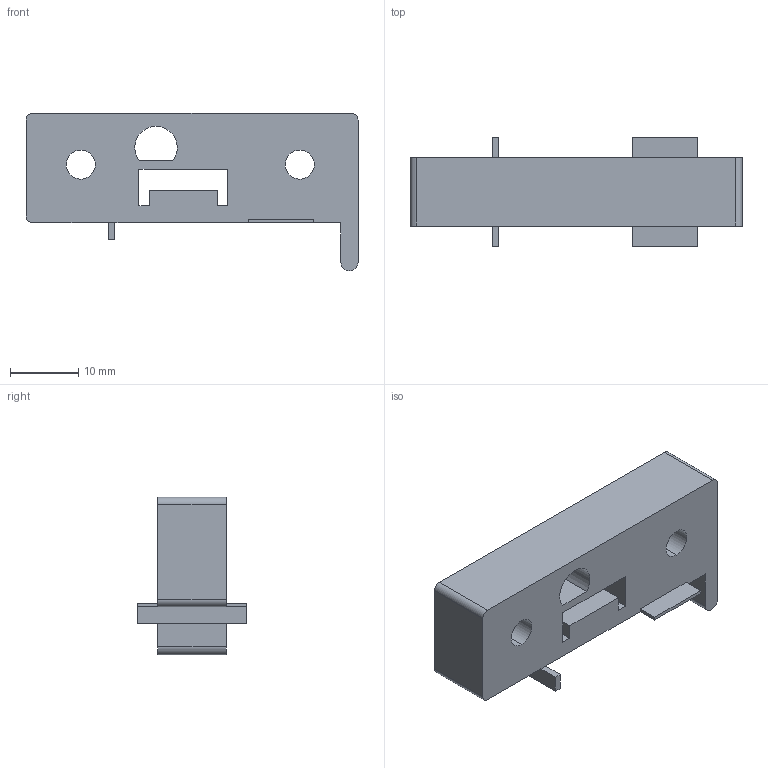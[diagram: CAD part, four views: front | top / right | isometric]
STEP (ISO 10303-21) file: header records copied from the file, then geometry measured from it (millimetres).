
FILE_DESCRIPTION (( 'STEP AP214' ), '1' );
FILE_NAME ('IMOS_Tablarhalter_hinten_LI.step', '2010-10-11T13:23:10', ( 'Grass' ), ( '' ), 'SwSTEP 2.0', 'SolidWorks 2010', '' );
FILE_SCHEMA (( 'AUTOMOTIVE_DESIGN' ));
Length unit declared in the file: millimetre
Products named in the file (1): IMOS_Tablarhalter_hinten_LI
Bounding box: 48.5 x 16 x 23 mm (x, y, z)
Volume: 6983.6 mm3; surface area: 3871.9 mm2
Topology: 1 solids, 1 shells, 44 faces, 122 edges, 80 vertices
Faces by surface type: plane 33, cylinder 11
Entity records: 1446 total; most frequent: CARTESIAN_POINT 247, ORIENTED_EDGE 244, DIRECTION 234, EDGE_CURVE 122, VECTOR 100, LINE 100, VERTEX_POINT 80, AXIS2_PLACEMENT_3D 67
